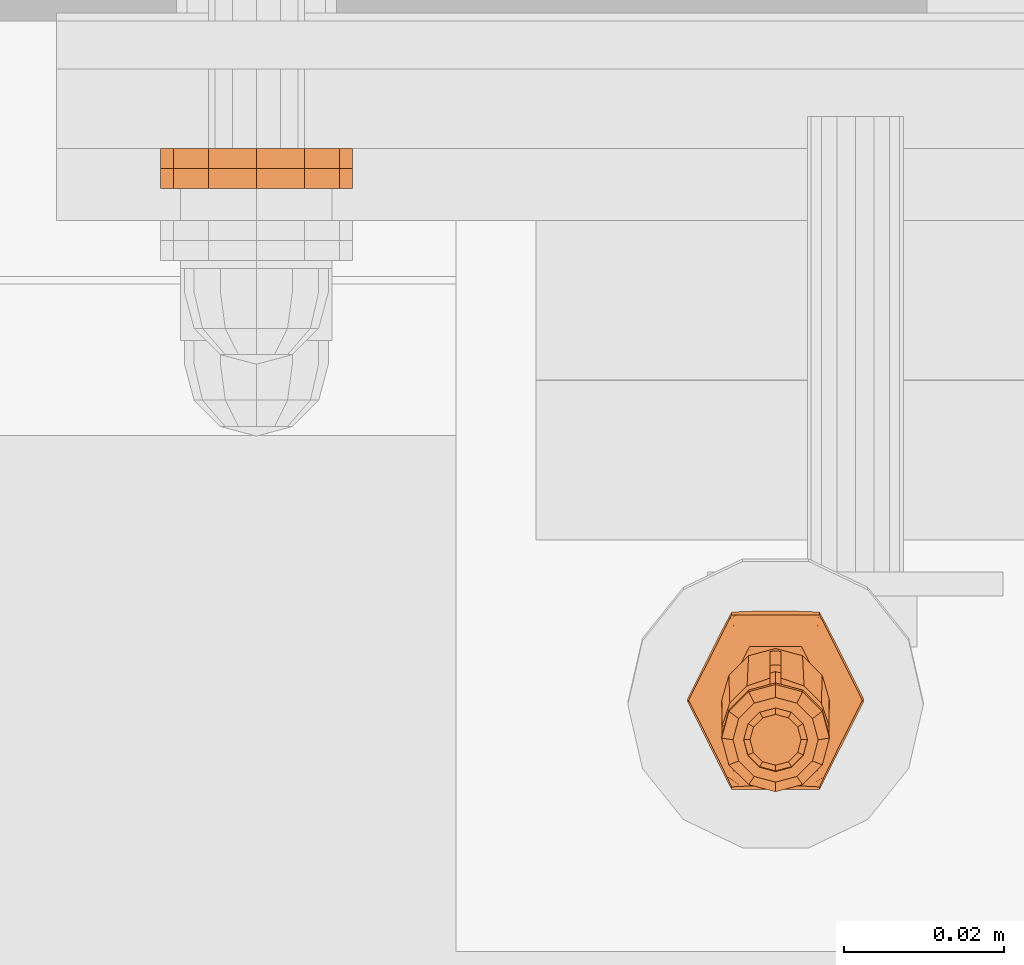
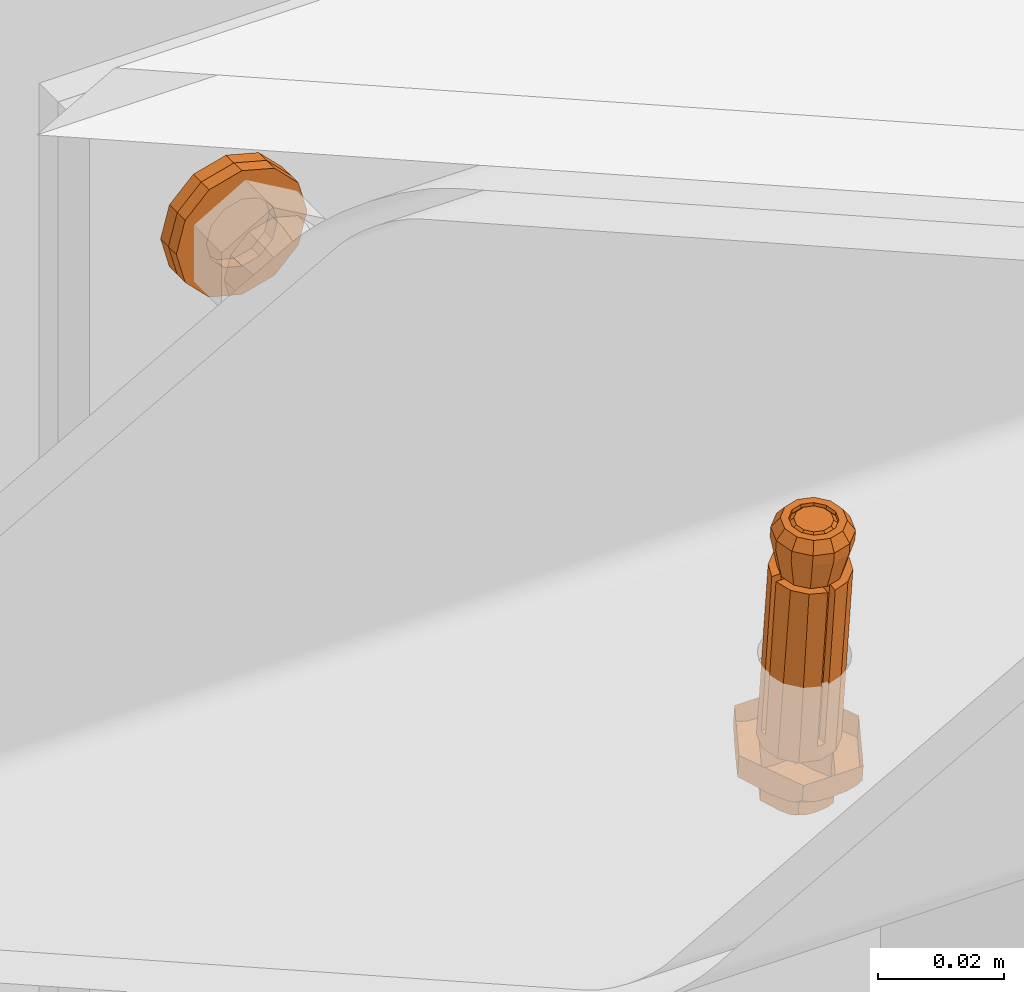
# One storey, part 149 of 162: 3 proxies.
"""IFC2X3 building model written with IfcOpenShell, lengths in millimetres."""

from ifc_helpers import new_model, entity, si_unit, converted_unit, origin_with_axes, place, context, project, spatial, faceted_brep, material, element, save


model = new_model("IFC2X3")

# Units and contexts
model_context = context("Model", 3, precision=1e-09, world=origin_with_axes())
ifc_project = project(units=[si_unit("LENGTHUNIT", "METRE", prefix="MILLI"), si_unit("AREAUNIT", "SQUARE_METRE"), si_unit("VOLUMEUNIT", "CUBIC_METRE"), converted_unit("PLANEANGLEUNIT", "DEGREE", entity("IfcPlaneAngleMeasure", 0.01745329), si_unit("PLANEANGLEUNIT", "RADIAN"), dimensions=[0, 0, 0, 0, 0, 0, 0])], contexts=[model_context])

# Site, building, storey
site_placement = place(None, origin_with_axes())
site = spatial("IfcSite", under=ifc_project, at=site_placement, Name="Hermannstra?e 1a, 60318 Frankfurt", CompositionType="ELEMENT")
building_placement = place(site_placement, origin_with_axes())
building = spatial("IfcBuilding", under=site, at=building_placement, Name="Struktur 1", CompositionType="ELEMENT")
storey_placement = place(building_placement, origin_with_axes())
storey = spatial("IfcBuildingStorey", under=building, at=storey_placement, Name="Default Storey", CompositionType="ELEMENT", Elevation=0.0)

# Proxies
ifc_material_1 = material(Name="S235JR")
proxy_1_placement = place(None, origin_with_axes())
element("IfcBuildingElementProxy", 1, at=proxy_1_placement, inside=storey, material=ifc_material_1, ObjectType="-", context=model_context, shape_type="Brep", body=[
    faceted_brep([(5517.309364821, 2645.676765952, 17429.830818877), (5516.509364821, 2645.593143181, 17430.626436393), (5516.080646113, 2644.001908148, 17430.459190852), (5516.773466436, 2643.687722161, 17429.621761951), (5514.909364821, 2642.837043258, 17430.336758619), (5515.309364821, 2642.231641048, 17429.468721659), (5511.709364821, 2648.349243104, 17430.916114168), (5510.538083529, 2647.184378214, 17430.793681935), (5510.109364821, 2645.593143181, 17430.626436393), (5510.538083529, 2644.001908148, 17430.459190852), (5511.709364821, 2642.837043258, 17430.336758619), (5513.309364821, 2642.410673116, 17430.291945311), (5516.080646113, 2647.184378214, 17430.793681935), (5514.909364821, 2648.349243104, 17430.916114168), (5513.309364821, 2648.775613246, 17430.960927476), (5516.773466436, 2647.665809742, 17430.039875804), (5513.309364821, 2641.69867837, 17429.412705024), (5517.309364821, 2650.150584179, 17387.265281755), (5516.773466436, 2648.161540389, 17387.056224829), (5516.773466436, 2652.13962797, 17387.474338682), (5515.309364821, 2649.121890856, 17430.192916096), (5515.309364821, 2646.705459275, 17386.903184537), (5509.845263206, 2643.687722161, 17429.621761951), (5509.309364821, 2645.676765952, 17429.830818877), (5511.309364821, 2642.231641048, 17429.468721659), (5513.309364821, 2649.654853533, 17430.24893273), (5511.309364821, 2649.121890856, 17430.192916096), (5509.845263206, 2647.665809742, 17430.039875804), (5515.309364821, 2653.595709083, 17387.627378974), (5513.309364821, 2646.172496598, 17386.847167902), (5517.63949184, 2647.664279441, 17387.003960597), (5518.309364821, 2650.150584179, 17387.265281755), (5517.63949184, 2652.636888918, 17387.526602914), (5515.809364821, 2654.456990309, 17387.717903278), (5513.309364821, 2655.123193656, 17387.787924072), (5510.809364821, 2654.456990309, 17387.717903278), (5508.979237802, 2652.636888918, 17387.526602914), (5508.309364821, 2650.150584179, 17387.265281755), (5508.979237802, 2647.664279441, 17387.003960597), (5510.809364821, 2645.844178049, 17386.812660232), (5513.309364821, 2645.177974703, 17386.742639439), (5515.809364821, 2645.844178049, 17386.812660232), (5511.309364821, 2646.705459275, 17386.903184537), (5509.845263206, 2648.161540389, 17387.056224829), (5509.309364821, 2650.150584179, 17387.265281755), (5509.845263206, 2652.13962797, 17387.474338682), (5511.309364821, 2653.595709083, 17387.627378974), (5513.309364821, 2654.128671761, 17387.683395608), (5518.263592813, 2649.312036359, 17388.785960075), (5518.263592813, 2650.654640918, 17388.927073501), (5517.522275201, 2649.316515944, 17420.962695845), (5516.002204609, 2650.82825943, 17421.121586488), (5518.263592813, 2645.967125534, 17420.610660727), (5517.522275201, 2643.960339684, 17420.399739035), (5516.002204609, 2642.448596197, 17420.240848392), (5518.304272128, 2649.758962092, 17388.832933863), (5518.304272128, 2650.207715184, 17388.880099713), (5518.263592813, 2647.309730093, 17420.751774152), (5513.984364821, 2651.565516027, 17421.199075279), (5513.984364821, 2654.910426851, 17389.374374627), (5516.877629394, 2640.940070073, 17420.082295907), (5519.039110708, 2643.089710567, 17420.308232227), (5520.025530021, 2645.967125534, 17420.610660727), (5513.984364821, 2641.711339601, 17420.163359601), (5513.984364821, 2639.959054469, 17419.979187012), (5513.984364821, 2645.056250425, 17388.338658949), (5520.025530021, 2649.312036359, 17388.785960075), (5520.055602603, 2649.759238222, 17388.832962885), (5520.055602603, 2650.207439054, 17388.880070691), (5520.025530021, 2650.654640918, 17388.927073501), (5512.634364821, 2645.056250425, 17388.338658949), (5512.634364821, 2654.910426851, 17389.374374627), (5520.025530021, 2647.309730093, 17420.751774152), (5519.039110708, 2650.18714506, 17421.054202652), (5516.877629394, 2652.336785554, 17421.280138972), (5513.984364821, 2653.317801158, 17421.383247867), (5513.534977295, 2654.950883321, 17389.378626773), (5513.083752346, 2654.950883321, 17389.378626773), (5513.534977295, 2645.015793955, 17388.334406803), (5508.355136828, 2649.312036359, 17388.785960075), (5513.083752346, 2645.015793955, 17388.334406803), (5509.09645444, 2643.960339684, 17420.399739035), (5510.616525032, 2642.448596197, 17420.240848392), (5512.634364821, 2641.711339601, 17420.163359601), (5512.634364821, 2651.565516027, 17421.199075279), (5510.616525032, 2650.82825943, 17421.121586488), (5509.09645444, 2649.316515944, 17420.962695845), (5508.355136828, 2647.309730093, 17420.751774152), (5508.355136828, 2650.654640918, 17388.927073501), (5520.059364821, 2650.306426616, 17385.78254002), (5513.984364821, 2656.662711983, 17389.558547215), (5513.534699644, 2656.692619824, 17389.561690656), (5513.084029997, 2656.692619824, 17389.561690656), (5512.634364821, 2656.662711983, 17389.558547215), (5519.155036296, 2646.949915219, 17385.429756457), (5512.634364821, 2643.303965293, 17388.154486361), (5513.084029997, 2643.274057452, 17388.15134292), (5513.534699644, 2643.274057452, 17388.15134292), (5513.984364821, 2643.303965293, 17388.154486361), (5508.314457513, 2649.758962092, 17388.832933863), (5508.355136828, 2645.967125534, 17420.610660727), (5512.634364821, 2639.959054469, 17419.979187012), (5512.634364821, 2653.317801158, 17421.383247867), (5509.741100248, 2652.336785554, 17421.280138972), (5507.579618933, 2650.18714506, 17421.054202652), (5506.59319962, 2647.309730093, 17420.751774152), (5508.314457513, 2650.207715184, 17388.880099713), (5519.155036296, 2653.662938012, 17386.135323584), (5516.684364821, 2656.120074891, 17386.393579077), (5516.684364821, 2644.49277834, 17385.171500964), (5506.59319962, 2650.654640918, 17388.927073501), (5506.563127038, 2650.207439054, 17388.880070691), (5506.563127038, 2649.759238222, 17388.832962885), (5506.59319962, 2649.312036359, 17388.785960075), (5506.59319962, 2645.967125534, 17420.610660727), (5513.309364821, 2643.593403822, 17385.076972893), (5507.579618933, 2643.089710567, 17420.308232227), (5509.741100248, 2640.940070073, 17420.082295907), (5513.309364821, 2657.019449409, 17386.488107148), (5509.934364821, 2644.49277834, 17385.171500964), (5507.463693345, 2646.949915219, 17385.429756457), (5506.559364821, 2650.306426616, 17385.78254002), (5507.463693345, 2653.662938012, 17386.135323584), (5509.934364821, 2656.120074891, 17386.393579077), (5517.576718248, 2639.76612164, 17380.83234845), (5519.379229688, 2640.92273113, 17380.731479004), (5518.809364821, 2639.689819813, 17381.55831184), (5519.092840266, 2640.767734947, 17380.704156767), (5520.033375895, 2642.275185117, 17380.379874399), (5521.472980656, 2645.172295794, 17380.360449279), (5524.309364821, 2650.773352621, 17381.340035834), (5524.309364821, 2650.306426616, 17385.78254002), (5518.809364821, 2639.366685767, 17384.632726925), (5507.809364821, 2639.689819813, 17381.55831184), (5509.042011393, 2639.76612164, 17380.83234845), (5510.418054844, 2639.807365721, 17380.439937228), (5513.309364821, 2639.833611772, 17380.190222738), (5516.200674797, 2639.807365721, 17380.439937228), (5507.809364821, 2639.366685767, 17384.632726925), (5518.578445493, 2641.720111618, 17380.166489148), (5521.472980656, 2656.455680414, 17381.546380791), (5520.033375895, 2659.285443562, 17382.167724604), (5519.379229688, 2660.535240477, 17382.7928368), (5518.809364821, 2661.569301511, 17383.857938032), (5518.809364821, 2661.246167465, 17386.932353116), (5523.847526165, 2650.79643214, 17381.120448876), (5517.576718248, 2661.645603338, 17383.131974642), (5510.418054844, 2661.686847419, 17382.73956342), (5509.042011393, 2661.645603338, 17383.131974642), (5507.809364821, 2661.569301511, 17383.857938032), (5507.809364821, 2661.246167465, 17386.932353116), (5516.200674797, 2661.686847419, 17382.73956342), (5513.309364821, 2661.71309347, 17382.48984893), (5513.309364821, 2640.315999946, 17380.018911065), (5507.239499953, 2640.92273113, 17380.731479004), (5507.525889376, 2640.767734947, 17380.704156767), (5517.984364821, 2642.766586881, 17380.053939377), (5522.659364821, 2650.819566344, 17380.900341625), (5519.092840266, 2660.692530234, 17382.798337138), (5505.145748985, 2645.172295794, 17380.360449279), (5506.585353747, 2642.275185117, 17380.379874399), (5502.309364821, 2650.306426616, 17385.78254002), (5502.309364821, 2650.773352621, 17381.340035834), (5508.040284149, 2641.720111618, 17380.166489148), (5521.406702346, 2646.170176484, 17380.411671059), (5513.309364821, 2641.520786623, 17379.923000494), (5518.578445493, 2659.872752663, 17382.074408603), (5507.525889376, 2660.692530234, 17382.798337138), (5507.239499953, 2660.535240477, 17382.7928368), (5505.145748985, 2656.455680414, 17381.546380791), (5506.585353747, 2659.285443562, 17382.167724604), (5508.634364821, 2642.766586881, 17380.053939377), (5505.212027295, 2646.170176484, 17380.411671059), (5503.959364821, 2650.819566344, 17380.900341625), (5505.212027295, 2655.468956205, 17381.389012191), (5508.634364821, 2658.872545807, 17381.746743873), (5513.309364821, 2660.118346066, 17381.877682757), (5517.984364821, 2658.872545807, 17381.746743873), (5521.406702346, 2655.468956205, 17381.389012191), (5516.559364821, 2644.355174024, 17380.220906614), (5519.809364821, 2650.819566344, 17380.900341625), (5516.559364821, 2657.283958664, 17381.579776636), (5510.059364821, 2657.283958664, 17381.579776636), (5506.809364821, 2650.819566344, 17380.900341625), (5510.059364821, 2644.355174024, 17380.220906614), (5515.830982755, 2644.956967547, 17374.49522371), (5516.896103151, 2645.64041861, 17374.435619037), (5516.559364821, 2644.911880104, 17374.924202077), (5517.282644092, 2646.439595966, 17374.227852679), (5518.133319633, 2648.151525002, 17374.216374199), (5519.809364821, 2651.4612404, 17374.7952208), (5513.309364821, 2661.276864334, 17382.221986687), (5508.040284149, 2659.872752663, 17382.074408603), (5510.787746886, 2644.956967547, 17374.49522371), (5511.600863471, 2644.98133905, 17374.263344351), (5513.309364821, 2644.99684808, 17374.115785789), (5515.01786617, 2644.98133905, 17374.263344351), (5510.059364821, 2644.911880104, 17374.924202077), (5516.726873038, 2645.548829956, 17374.419474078), (5519.53646016, 2651.474878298, 17374.66546487), (5502.771203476, 2650.79643214, 17381.120448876), (5516.422912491, 2646.111597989, 17374.101761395), (5518.834364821, 2651.488548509, 17374.535401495), (5518.133319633, 2654.818979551, 17374.917151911), (5516.559364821, 2657.840664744, 17376.283072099), (5517.282644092, 2656.49111232, 17375.284309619), (5516.896103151, 2657.229628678, 17375.653694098), (5518.094155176, 2648.741181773, 17374.246641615), (5515.830982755, 2657.885752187, 17375.854093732), (5515.01786617, 2657.91012369, 17375.622214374), (5513.309364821, 2657.92563272, 17375.474655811), (5511.600863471, 2657.91012369, 17375.622214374), (5510.787746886, 2657.885752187, 17375.854093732), (5510.059364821, 2657.840664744, 17376.283072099), (5509.72262649, 2645.64041861, 17374.435619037), (5513.309364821, 2645.281895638, 17374.014556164), (5516.071864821, 2646.729969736, 17374.035254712), (5508.524574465, 2654.235915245, 17374.824161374), (5510.546864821, 2656.247127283, 17375.035548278), (5513.309364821, 2656.983281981, 17375.112921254), (5516.071864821, 2656.247127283, 17375.035548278), (5518.094155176, 2654.235915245, 17374.824161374), (5513.309364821, 2645.993815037, 17373.957881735), (5510.546864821, 2646.729969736, 17374.035254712), (5508.524574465, 2648.741181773, 17374.246641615), (5507.784364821, 2651.488548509, 17374.535401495), (5516.726873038, 2657.322572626, 17375.656944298), (5509.891856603, 2645.548829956, 17374.419474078), (5508.485410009, 2648.151525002, 17374.216374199), (5509.33608555, 2646.439595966, 17374.227852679), (5506.809364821, 2651.4612404, 17374.7952208), (5516.422912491, 2656.838158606, 17375.229168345), (5509.72262649, 2657.229628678, 17375.653694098), (5510.195817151, 2646.111597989, 17374.101761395), (5513.309364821, 2657.667860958, 17375.316373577), (5509.891856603, 2657.322572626, 17375.656944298), (5509.33608555, 2656.49111232, 17375.284309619), (5508.485410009, 2654.818979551, 17374.917151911), (5510.195817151, 2656.838158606, 17375.229168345), (5507.082269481, 2651.474878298, 17374.66546487)], [[[0, 1, 2, 3]], [[3, 2, 4, 5]], [[6, 7, 8, 9, 10, 11, 4, 2, 1, 12, 13, 14]], [[1, 0, 15, 12]], [[5, 4, 11, 16]], [[17, 0, 3, 18]], [[19, 15, 0, 17]], [[12, 15, 20, 13]], [[18, 3, 5, 21]], [[22, 9, 8, 23]], [[24, 10, 9, 22]], [[16, 11, 10, 24]], [[25, 14, 13, 20]], [[26, 6, 14, 25]], [[27, 7, 6, 26]], [[23, 8, 7, 27]], [[15, 19, 28, 20]], [[21, 5, 16, 29]], [[30, 31, 32, 33, 34, 35, 36, 37, 38, 39, 40, 41], [21, 29, 42, 43, 44, 45, 46, 47, 28, 19, 17, 18]], [[20, 28, 47, 25]], [[43, 22, 23, 44]], [[42, 24, 22, 43]], [[29, 16, 24, 42]], [[46, 26, 25, 47]], [[45, 27, 26, 46]], [[44, 23, 27, 45]], [[31, 30, 48]], [[32, 31, 49]], [[33, 32, 50, 51]], [[52, 30, 53]], [[30, 41, 54, 53]], [[48, 30, 52]], [[55, 31, 48]], [[56, 31, 55]], [[49, 31, 56]], [[57, 32, 49]], [[50, 32, 57]], [[58, 33, 51]], [[34, 33, 59]], [[60, 61, 62, 52, 53, 54, 63, 64]], [[41, 40, 65]], [[54, 41, 63]], [[48, 52, 62, 66]], [[56, 55, 48, 66, 67, 68, 69, 49]], [[40, 39, 70]], [[35, 34, 71]], [[57, 49, 69, 72]], [[73, 74, 75, 58, 51, 50, 57, 72]], [[59, 33, 58]], [[76, 34, 59]], [[77, 34, 76]], [[65, 40, 78]], [[63, 41, 65]], [[38, 37, 79]], [[80, 40, 70]], [[78, 40, 80]], [[39, 38, 81, 82]], [[70, 39, 83]], [[71, 34, 77]], [[84, 35, 71]], [[36, 35, 85, 86]], [[87, 36, 86]], [[37, 36, 88]], [[68, 67, 89]], [[59, 58, 75, 90]], [[77, 76, 59, 90, 91, 92, 93, 71]], [[62, 61, 94]], [[95, 96, 97, 98, 65, 78, 80, 70]], [[63, 65, 98, 64]], [[94, 66, 62]], [[67, 66, 89]], [[79, 37, 99]], [[100, 38, 79]], [[81, 38, 100]], [[70, 83, 101, 95]], [[83, 39, 82]], [[84, 71, 93, 102]], [[85, 35, 84]], [[103, 104, 105, 87, 86, 85, 84, 102]], [[88, 36, 87]], [[106, 37, 88]], [[99, 37, 106]], [[89, 69, 68]], [[72, 69, 107]], [[73, 72, 107]], [[108, 74, 73, 107]], [[75, 74, 108]], [[94, 61, 60, 109]], [[60, 64, 109]], [[89, 66, 94]], [[110, 111, 112, 113, 79, 99, 106, 88]], [[100, 79, 113, 114]], [[97, 96, 115]], [[116, 117, 101, 83, 82, 81, 100, 114]], [[92, 91, 118]], [[88, 87, 105, 110]], [[107, 69, 89]], [[108, 90, 75]], [[91, 90, 118]], [[115, 98, 97]], [[64, 98, 109]], [[94, 109, 115, 119, 120, 121, 122, 123, 118, 108, 107, 89]], [[119, 95, 101]], [[96, 95, 115]], [[101, 117, 119]], [[118, 93, 92]], [[102, 93, 123]], [[105, 104, 122]], [[112, 111, 121]], [[118, 90, 108]], [[109, 98, 115]], [[121, 113, 112]], [[114, 113, 120]], [[115, 95, 119]], [[116, 114, 120]], [[119, 117, 116, 120]], [[124, 125, 126]], [[127, 125, 124]], [[127, 128, 125]], [[129, 130, 131, 132, 126, 125, 128]], [[123, 93, 118]], [[103, 102, 123]], [[122, 104, 103, 123]], [[122, 110, 105]], [[111, 110, 121]], [[120, 113, 121]], [[133, 134, 135, 136, 137, 124, 126, 132, 138]], [[137, 127, 124]], [[139, 128, 127]], [[121, 110, 122]], [[140, 141, 142, 143, 144, 131, 130]], [[139, 127, 137]], [[139, 129, 128]], [[129, 145, 130]], [[143, 142, 146]], [[147, 148, 149, 150, 144, 143, 146, 151, 152]], [[137, 136, 153]], [[133, 154, 134]], [[155, 135, 134]], [[134, 154, 155]], [[153, 139, 137]], [[156, 129, 139]], [[157, 145, 129]], [[145, 140, 130]], [[142, 141, 158]], [[146, 142, 158]], [[159, 160, 154, 133, 138, 161, 162]], [[136, 135, 153]], [[163, 135, 155]], [[154, 160, 155]], [[129, 156, 164]], [[156, 139, 153, 165]], [[164, 157, 129]], [[157, 140, 145]], [[158, 141, 166]], [[158, 151, 146]], [[147, 167, 148]], [[167, 168, 148]], [[148, 168, 149]], [[169, 162, 161, 150, 149, 168, 170]], [[153, 135, 163]], [[155, 160, 163]], [[165, 171, 172, 173, 174, 175, 176, 177, 178, 157, 164, 156], [179, 180, 181, 182, 183, 184]], [[185, 186, 187]], [[180, 179, 187, 186, 188, 189, 190]], [[140, 157, 178]], [[140, 166, 141]], [[166, 151, 158]], [[152, 151, 191]], [[147, 152, 191]], [[192, 167, 147]], [[167, 170, 168]], [[165, 153, 163, 171]], [[159, 163, 160]], [[193, 194, 195, 196, 185, 187, 179, 184, 197]], [[198, 186, 185]], [[198, 188, 186]], [[189, 199, 190]], [[178, 177, 140]], [[177, 166, 140]], [[191, 151, 166]], [[191, 192, 147]], [[192, 170, 167]], [[200, 159, 162]], [[171, 163, 159]], [[196, 198, 185]], [[201, 188, 198]], [[202, 199, 189]], [[199, 203, 190]], [[204, 181, 180, 190, 203, 205, 206]], [[166, 177, 176, 191]], [[175, 192, 191, 176]], [[192, 169, 170]], [[169, 200, 162]], [[173, 159, 200]], [[172, 171, 159]], [[201, 198, 196]], [[201, 189, 188]], [[207, 202, 189]], [[204, 206, 208]], [[202, 203, 199]], [[182, 181, 204, 208, 209, 210, 211, 212, 213]], [[175, 169, 192]], [[159, 173, 172]], [[173, 200, 169]], [[197, 214, 193]], [[196, 195, 215]], [[215, 201, 196]], [[216, 189, 201]], [[189, 216, 207]], [[217, 218, 219, 220, 221, 202, 207, 216, 222, 223, 224, 225]], [[206, 205, 226]], [[208, 206, 226]], [[203, 202, 221]], [[169, 175, 174]], [[174, 173, 169]], [[227, 194, 193]], [[193, 214, 227]], [[228, 229, 214, 197, 184, 183, 230]], [[195, 194, 215]], [[216, 201, 215, 222]], [[226, 205, 231]], [[226, 209, 208]], [[221, 220, 203]], [[203, 231, 205]], [[212, 232, 213]], [[233, 194, 227]], [[214, 229, 227]], [[215, 194, 233]], [[231, 209, 226]], [[220, 231, 203]], [[210, 209, 234]], [[211, 235, 212]], [[235, 232, 212]], [[183, 182, 213, 232, 236, 237, 230]], [[227, 229, 233]], [[222, 215, 233, 223]], [[234, 209, 231]], [[231, 220, 219, 234]], [[211, 210, 234]], [[238, 235, 211]], [[235, 236, 232]], [[239, 228, 230]], [[228, 233, 229]], [[237, 239, 230]], [[234, 238, 211]], [[238, 236, 235]], [[225, 228, 239]], [[223, 233, 228]], [[234, 219, 218, 238]], [[225, 239, 237]], [[238, 237, 236]], [[228, 225, 224]], [[224, 223, 228]], [[217, 225, 237]], [[218, 237, 238]], [[237, 218, 217]]]),
    faceted_brep([(5515.976031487, 2650.186643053, 17431.109232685), (5516.684364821, 2651.615848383, 17429.248431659), (5513.309364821, 2652.515222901, 17429.34295973), (5513.309364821, 2650.897259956, 17431.183921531), (5513.309364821, 2652.724279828, 17427.353915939), (5513.309364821, 2651.942544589, 17421.238702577), (5510.642698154, 2651.231927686, 17421.164013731), (5509.934364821, 2651.82490531, 17427.259387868), (5517.928166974, 2648.245201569, 17430.905178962), (5519.155036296, 2649.158711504, 17428.990176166), (5510.642698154, 2650.186643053, 17431.109232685), (5508.690562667, 2648.245201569, 17430.905178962), (5507.976031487, 2645.593143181, 17430.626436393), (5508.690562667, 2642.941084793, 17430.347693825), (5510.642698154, 2640.999643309, 17430.143640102), (5513.309364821, 2640.289026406, 17430.068951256), (5515.976031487, 2640.999643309, 17430.143640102), (5517.928166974, 2642.941084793, 17430.347693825), (5518.642698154, 2645.593143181, 17430.626436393), (5516.773466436, 2647.582186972, 17430.83549332), (5517.309364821, 2645.593143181, 17430.626436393), (5516.773466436, 2643.60409939, 17430.417379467), (5515.309364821, 2642.148018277, 17430.264339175), (5513.309364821, 2641.615055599, 17430.20832254), (5511.309364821, 2642.148018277, 17430.264339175), (5509.845263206, 2643.60409939, 17430.417379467), (5509.309364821, 2645.593143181, 17430.626436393), (5509.845263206, 2647.582186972, 17430.83549332), (5511.309364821, 2649.038268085, 17430.988533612), (5513.309364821, 2649.571230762, 17431.044550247), (5515.309364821, 2649.038268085, 17430.988533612), (5515.976031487, 2651.231927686, 17421.164013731), (5517.928166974, 2649.290486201, 17420.959960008), (5518.642698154, 2646.638427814, 17420.68121744), (5517.928166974, 2643.986369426, 17420.402474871), (5515.976031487, 2642.044927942, 17420.198421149), (5513.309364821, 2641.334311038, 17420.123732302), (5510.642698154, 2642.044927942, 17420.198421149), (5508.690562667, 2643.986369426, 17420.402474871), (5507.976031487, 2646.638427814, 17420.68121744), (5508.690562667, 2649.290486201, 17420.959960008), (5516.684364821, 2651.82490531, 17427.259387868), (5513.309364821, 2650.616515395, 17421.099331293), (5515.309364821, 2650.083552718, 17421.043314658), (5511.309364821, 2650.083552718, 17421.043314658), (5509.934364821, 2651.615848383, 17429.248431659), (5507.463693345, 2649.367768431, 17427.001132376), (5520.059364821, 2645.802200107, 17428.637392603), (5519.155036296, 2649.367768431, 17427.001132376), (5516.773466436, 2648.627471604, 17420.890274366), (5509.845263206, 2648.627471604, 17420.890274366), (5507.463693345, 2649.158711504, 17428.990176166), (5506.559364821, 2646.011257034, 17426.648348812), (5519.155036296, 2642.445688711, 17428.284609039), (5520.059364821, 2646.011257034, 17426.648348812), (5517.309364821, 2646.638427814, 17420.68121744), (5509.309364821, 2646.638427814, 17420.68121744), (5516.773466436, 2644.649384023, 17420.472160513), (5506.559364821, 2645.802200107, 17428.637392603), (5515.309364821, 2643.19330291, 17420.319120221), (5507.463693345, 2642.654745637, 17426.295565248), (5509.845263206, 2644.649384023, 17420.472160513), (5511.309364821, 2643.19330291, 17420.319120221), (5513.309364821, 2642.660340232, 17420.263103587), (5516.684364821, 2639.988551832, 17428.026353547), (5519.155036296, 2642.654745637, 17426.295565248), (5507.463693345, 2642.445688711, 17428.284609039), (5509.934364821, 2640.197608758, 17426.037309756), (5513.309364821, 2639.089177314, 17427.931825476), (5516.684364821, 2640.197608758, 17426.037309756), (5509.934364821, 2639.988551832, 17428.026353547), (5513.309364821, 2639.29823424, 17425.942781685)], [[[0, 1, 2, 3]], [[4, 5, 6, 7]], [[1, 0, 8, 9]], [[8, 0, 3, 10, 11, 12, 13, 14, 15, 16, 17, 18], [19, 20, 21, 22, 23, 24, 25, 26, 27, 28, 29, 30]], [[31, 32, 33, 34, 35, 36, 37, 38, 39, 40, 6, 5]], [[5, 4, 41, 31]], [[29, 42, 43, 30]], [[4, 2, 1, 41]], [[42, 29, 28, 44]], [[3, 2, 45, 10]], [[2, 4, 7, 45]], [[7, 6, 40, 46]], [[9, 8, 18, 47]], [[41, 1, 9, 48]], [[30, 43, 49, 19]], [[31, 41, 48, 32]], [[44, 28, 27, 50]], [[10, 45, 51, 11]], [[45, 7, 46, 51]], [[46, 40, 39, 52]], [[47, 18, 17, 53]], [[48, 9, 47, 54]], [[55, 20, 19, 49]], [[32, 48, 54, 33]], [[26, 56, 50, 27]], [[20, 55, 57, 21]], [[11, 51, 58, 12]], [[51, 46, 52, 58]], [[59, 22, 21, 57]], [[52, 39, 38, 60]], [[25, 61, 56, 26]], [[24, 62, 61, 25]], [[63, 23, 22, 59]], [[53, 17, 16, 64]], [[54, 47, 53, 65]], [[33, 54, 65, 34]], [[23, 63, 62, 24]], [[12, 58, 66, 13]], [[58, 52, 60, 66]], [[60, 38, 37, 67]], [[64, 16, 15, 68]], [[65, 53, 64, 69]], [[34, 65, 69, 35]], [[13, 66, 70, 14]], [[66, 60, 67, 70]], [[71, 36, 35, 69]], [[67, 37, 36, 71]], [[68, 15, 14, 70]], [[69, 64, 68, 71]], [[70, 67, 71, 68]]]),
])
ifc_material_2 = material(Name="Kunststoff")
proxy_2_placement = place(None, origin_with_axes())
element("IfcBuildingElementProxy", 2, at=proxy_2_placement, inside=storey, material=ifc_material_2, ObjectType="-", context=model_context, shape_type="Brep", body=[
    faceted_brep([(5437.917059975, 2719.609373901, 17460.999), (5437.917059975, 2717.109373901, 17460.999), (5436.309364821, 2717.109373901, 17466.999), (5436.309364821, 2719.609373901, 17466.999), (5442.680199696, 2719.609373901, 17463.749), (5445.059364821, 2719.609373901, 17461.369834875), (5448.309364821, 2719.609373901, 17460.499), (5451.559364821, 2719.609373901, 17461.369834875), (5453.938529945, 2719.609373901, 17463.749), (5454.809364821, 2719.609373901, 17466.999), (5453.938529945, 2719.609373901, 17470.249), (5451.559364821, 2719.609373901, 17472.628165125), (5448.309364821, 2719.609373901, 17473.499), (5445.059364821, 2719.609373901, 17472.628165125), (5442.680199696, 2719.609373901, 17470.249), (5441.809364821, 2719.609373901, 17466.999), (5441.809364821, 2717.109373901, 17466.999), (5442.680199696, 2717.109373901, 17463.749), (5442.309364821, 2717.109373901, 17456.606695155), (5448.309364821, 2717.109373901, 17454.999), (5454.309364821, 2717.109373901, 17456.606695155), (5458.701669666, 2717.109373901, 17460.999), (5460.309364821, 2717.109373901, 17466.999), (5458.701669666, 2717.109373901, 17472.999), (5454.309364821, 2717.109373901, 17477.391304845), (5448.309364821, 2717.109373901, 17478.999), (5442.309364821, 2717.109373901, 17477.391304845), (5437.917059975, 2717.109373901, 17472.999), (5442.309364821, 2719.609373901, 17456.606695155), (5442.680199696, 2717.109373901, 17470.249), (5437.917059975, 2719.609373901, 17472.999), (5445.059364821, 2717.109373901, 17461.369834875), (5448.309364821, 2719.609373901, 17454.999), (5445.059364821, 2717.109373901, 17472.628165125), (5442.309364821, 2719.609373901, 17477.391304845), (5448.309364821, 2717.109373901, 17460.499), (5448.309364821, 2717.109373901, 17473.499), (5454.309364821, 2719.609373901, 17456.606695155), (5451.559364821, 2717.109373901, 17461.369834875), (5448.309364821, 2719.609373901, 17478.999), (5451.559364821, 2717.109373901, 17472.628165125), (5458.701669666, 2719.609373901, 17460.999), (5453.938529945, 2717.109373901, 17463.749), (5454.309364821, 2719.609373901, 17477.391304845), (5453.938529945, 2717.109373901, 17470.249), (5460.309364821, 2719.609373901, 17466.999), (5454.809364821, 2717.109373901, 17466.999), (5458.701669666, 2719.609373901, 17472.999)], [[[0, 1, 2, 3]], [[4, 5, 6, 7, 8, 9, 10, 11, 12, 13, 14, 15]], [[15, 16, 17, 4]], [[1, 18, 19, 20, 21, 22, 23, 24, 25, 26, 27, 2]], [[1, 0, 28, 18]], [[16, 15, 14, 29]], [[3, 2, 27, 30]], [[4, 17, 31, 5]], [[18, 28, 32, 19]], [[29, 14, 13, 33]], [[30, 27, 26, 34]], [[5, 31, 35, 6]], [[33, 13, 12, 36]], [[19, 32, 37, 20]], [[6, 35, 38, 7]], [[34, 26, 25, 39]], [[36, 12, 11, 40]], [[20, 37, 41, 21]], [[7, 38, 42, 8]], [[39, 25, 24, 43]], [[40, 11, 10, 44]], [[21, 41, 45, 22]], [[8, 42, 46, 9]], [[43, 24, 23, 47]], [[44, 10, 9, 46]], [[22, 45, 47, 23]]]),
])
ifc_material_3 = material(Name="A4")
proxy_3_placement = place(None, origin_with_axes())
element("IfcBuildingElementProxy", 3, at=proxy_3_placement, inside=storey, material=ifc_material_3, ObjectType="-", context=model_context, shape_type="Brep", body=[
    faceted_brep([(5458.701669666, 2717.109373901, 17460.999), (5458.701669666, 2714.609373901, 17460.999), (5454.309364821, 2714.609373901, 17456.606695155), (5454.309364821, 2717.109373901, 17456.606695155), (5460.309364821, 2714.609373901, 17466.999), (5458.701669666, 2714.609373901, 17472.999), (5454.309364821, 2714.609373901, 17477.391304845), (5448.309364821, 2714.609373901, 17478.999), (5442.309364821, 2714.609373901, 17477.391304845), (5437.917059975, 2714.609373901, 17472.999), (5436.309364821, 2714.609373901, 17466.999), (5437.917059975, 2714.609373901, 17460.999), (5442.309364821, 2714.609373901, 17456.606695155), (5448.309364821, 2714.609373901, 17454.999), (5448.309364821, 2714.609373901, 17460.499), (5445.059364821, 2714.609373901, 17461.369834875), (5442.680199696, 2714.609373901, 17463.749), (5441.809364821, 2714.609373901, 17466.999), (5442.680199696, 2714.609373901, 17470.249), (5445.059364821, 2714.609373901, 17472.628165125), (5448.309364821, 2714.609373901, 17473.499), (5451.559364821, 2714.609373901, 17472.628165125), (5453.938529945, 2714.609373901, 17470.249), (5454.809364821, 2714.609373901, 17466.999), (5453.938529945, 2714.609373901, 17463.749), (5451.559364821, 2714.609373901, 17461.369834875), (5453.938529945, 2717.109373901, 17463.749), (5454.809364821, 2717.109373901, 17466.999), (5453.938529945, 2717.109373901, 17470.249), (5451.559364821, 2717.109373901, 17472.628165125), (5448.309364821, 2717.109373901, 17473.499), (5445.059364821, 2717.109373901, 17472.628165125), (5442.680199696, 2717.109373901, 17470.249), (5441.809364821, 2717.109373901, 17466.999), (5442.680199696, 2717.109373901, 17463.749), (5445.059364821, 2717.109373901, 17461.369834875), (5448.309364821, 2717.109373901, 17460.499), (5451.559364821, 2717.109373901, 17461.369834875), (5460.309364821, 2717.109373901, 17466.999), (5448.309364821, 2717.109373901, 17454.999), (5458.701669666, 2717.109373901, 17472.999), (5442.309364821, 2717.109373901, 17456.606695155), (5454.309364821, 2717.109373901, 17477.391304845), (5437.917059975, 2717.109373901, 17460.999), (5448.309364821, 2717.109373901, 17478.999), (5436.309364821, 2717.109373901, 17466.999), (5442.309364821, 2717.109373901, 17477.391304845), (5437.917059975, 2717.109373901, 17472.999)], [[[0, 1, 2, 3]], [[2, 1, 4, 5, 6, 7, 8, 9, 10, 11, 12, 13], [14, 15, 16, 17, 18, 19, 20, 21, 22, 23, 24, 25]], [[26, 27, 28, 29, 30, 31, 32, 33, 34, 35, 36, 37]], [[24, 26, 37, 25]], [[1, 0, 38, 4]], [[26, 24, 23, 27]], [[25, 37, 36, 14]], [[3, 2, 13, 39]], [[4, 38, 40, 5]], [[27, 23, 22, 28]], [[14, 36, 35, 15]], [[39, 13, 12, 41]], [[5, 40, 42, 6]], [[28, 22, 21, 29]], [[15, 35, 34, 16]], [[41, 12, 11, 43]], [[33, 17, 16, 34]], [[6, 42, 44, 7]], [[29, 21, 20, 30]], [[32, 18, 17, 33]], [[43, 11, 10, 45]], [[19, 31, 30, 20]], [[18, 32, 31, 19]], [[7, 44, 46, 8]], [[45, 10, 9, 47]], [[8, 46, 47, 9]]]),
])

save(model, "model.ifc")
